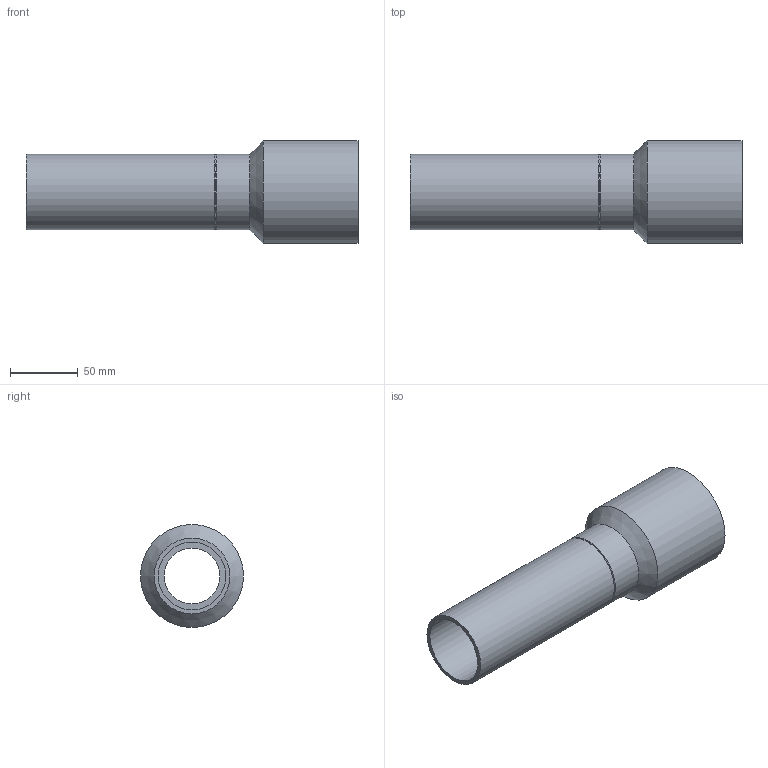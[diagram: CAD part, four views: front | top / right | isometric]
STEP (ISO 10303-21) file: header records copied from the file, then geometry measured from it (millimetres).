
FILE_DESCRIPTION(/* description */ (''),/* implementation_level */ '2;1');
FILE_NAME(/* name */ 'Z:\Geberit\Export\NewStep\152149.stp',/* time_stamp */ '2014-03-31T08:23:09+02:00',/* author */ ('nelson'),/* organization */ (''),/* preprocessor_version */ 'ST-DEVELOPER v15.2',/* originating_system */ 'Autodesk Inventor 2014',/* authorisation */ '');
FILE_SCHEMA (('AUTOMOTIVE_DESIGN { 1 0 10303 214 3 1 1 }'));
Length unit declared in the file: millimetre
Products named in the file (1): 152149
Bounding box: 245 x 76 x 76 mm (x, y, z)
Volume: 141421.4 mm3; surface area: 94636.6 mm2
Topology: 1 solids, 1 shells, 13 faces, 23 edges, 13 vertices
Faces by surface type: cylinder 6, cone 4, plane 3
Full cylindrical faces by diameter (mm): 41 x1, 50 x1, 56 x2, 70 x1, 76 x1
Entity records: 289 total; most frequent: DIRECTION 54, CARTESIAN_POINT 40, AXIS2_PLACEMENT_3D 27, EDGE_LOOP 26, ORIENTED_EDGE 26, FACE_BOUND 14, CIRCLE 13, VERTEX_POINT 13
